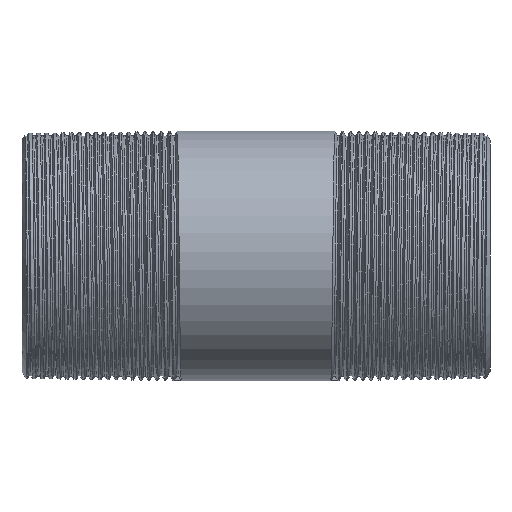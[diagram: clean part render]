
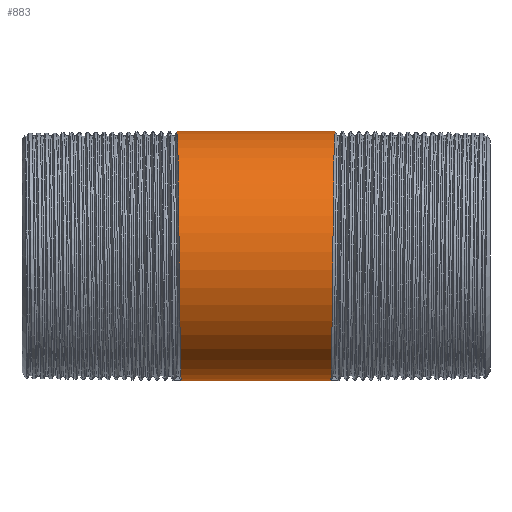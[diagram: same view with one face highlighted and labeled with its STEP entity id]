
A CAD part, front view. The second image highlights one B-rep face of the part: STEP entity #883.
In plain terms, the highlighted cylindrical face has radius 10.65 mm (diameter 21.3 mm), a partial arc.
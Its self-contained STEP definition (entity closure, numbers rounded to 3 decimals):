
#263 = LINE ( 'NONE', #6450, #5748 ) ;
#527 = CARTESIAN_POINT ( 'NONE',  ( -6.679, -6.149, 10.65 ) ) ;
#595 = CARTESIAN_POINT ( 'NONE',  ( -6.504, -9.223, -5.325 ) ) ;
#883 = ADVANCED_FACE ( 'NONE', ( #11057 ), #7964, .T. ) ;
#1062 = ORIENTED_EDGE ( 'NONE', *, *, #12455, .T. ) ;
#1143 = AXIS2_PLACEMENT_3D ( 'NONE', #1585, #7686, #10850 ) ;
#1231 = DIRECTION ( 'NONE',  ( -1., 0., 0. ) ) ;
#1392 = EDGE_CURVE ( 'NONE', #5794, #2106, #7901, .T. ) ;
#1564 = CARTESIAN_POINT ( 'NONE',  ( -6.446, -6.149, -10.65 ) ) ;
#1585 = CARTESIAN_POINT ( 'NONE',  ( -149.494, 0., 0. ) ) ;
#1757 = CARTESIAN_POINT ( 'NONE',  ( 6.563, -12.298, 0. ) ) ;
#1900 = EDGE_CURVE ( 'NONE', #2150, #7421, #263, .T. ) ;
#2106 = VERTEX_POINT ( 'NONE', #12124 ) ;
#2150 = VERTEX_POINT ( 'NONE', #4034 ) ;
#2486 =( BOUNDED_CURVE ( )  B_SPLINE_CURVE ( 2, ( #2993, #7998, #12181, #1757, #5939, #10122, #9499 ),
 .UNSPECIFIED., .F., .F. ) 
 B_SPLINE_CURVE_WITH_KNOTS ( ( 3, 2, 2, 3 ),
 ( 0., 0.008, 0.017, 0.025 ),
 .UNSPECIFIED. ) 
 CURVE ( )  GEOMETRIC_REPRESENTATION_ITEM ( )  RATIONAL_B_SPLINE_CURVE ( ( 1., 0.866, 1., 0.866, 1., 0.866, 1. ) ) 
 REPRESENTATION_ITEM ( '' )  );
#2993 = CARTESIAN_POINT ( 'NONE',  ( 6.388, 0., -10.65 ) ) ;
#3631 = CARTESIAN_POINT ( 'NONE',  ( -6.388, 0., -10.65 ) ) ;
#4034 = CARTESIAN_POINT ( 'NONE',  ( 6.738, 0., 10.65 ) ) ;
#4724 = CARTESIAN_POINT ( 'NONE',  ( -6.738, 0., 10.65 ) ) ;
#5167 = ORIENTED_EDGE ( 'NONE', *, *, #1900, .T. ) ;
#5748 = VECTOR ( 'NONE', #1231, 1000. ) ;
#5754 = CARTESIAN_POINT ( 'NONE',  ( -6.563, -12.298, 0. ) ) ;
#5794 = VERTEX_POINT ( 'NONE', #11839 ) ;
#5939 = CARTESIAN_POINT ( 'NONE',  ( 6.621, -9.223, 5.325 ) ) ;
#6450 = CARTESIAN_POINT ( 'NONE',  ( -149.494, 0., 10.65 ) ) ;
#6920 = CARTESIAN_POINT ( 'NONE',  ( -6.738, 0., 10.65 ) ) ;
#7080 = DIRECTION ( 'NONE',  ( -1., 0., 0. ) ) ;
#7421 = VERTEX_POINT ( 'NONE', #6920 ) ;
#7686 = DIRECTION ( 'NONE',  ( -1., 0., 0. ) ) ;
#7901 = LINE ( 'NONE', #7972, #8585 ) ;
#7964 = CYLINDRICAL_SURFACE ( 'NONE', #1143, 10.65 ) ;
#7972 = CARTESIAN_POINT ( 'NONE',  ( -149.494, 0., -10.65 ) ) ;
#7998 = CARTESIAN_POINT ( 'NONE',  ( 6.446, -6.149, -10.65 ) ) ;
#8585 = VECTOR ( 'NONE', #7080, 1000. ) ;
#9135 =( BOUNDED_CURVE ( )  B_SPLINE_CURVE ( 2, ( #3631, #1564, #595, #5754, #13090, #527, #4724 ),
 .UNSPECIFIED., .F., .F. ) 
 B_SPLINE_CURVE_WITH_KNOTS ( ( 3, 2, 2, 3 ),
 ( 0., 0.008, 0.017, 0.025 ),
 .UNSPECIFIED. ) 
 CURVE ( )  GEOMETRIC_REPRESENTATION_ITEM ( )  RATIONAL_B_SPLINE_CURVE ( ( 1., 0.866, 1., 0.866, 1., 0.866, 1. ) ) 
 REPRESENTATION_ITEM ( '' )  );
#9499 = CARTESIAN_POINT ( 'NONE',  ( 6.738, 0., 10.65 ) ) ;
#9697 = ORIENTED_EDGE ( 'NONE', *, *, #1392, .F. ) ;
#10122 = CARTESIAN_POINT ( 'NONE',  ( 6.679, -6.149, 10.65 ) ) ;
#10850 = DIRECTION ( 'NONE',  ( 0., 0., 1. ) ) ;
#11057 = FACE_OUTER_BOUND ( 'NONE', #13142, .T. ) ;
#11839 = CARTESIAN_POINT ( 'NONE',  ( 6.388, 0., -10.65 ) ) ;
#12124 = CARTESIAN_POINT ( 'NONE',  ( -6.388, 0., -10.65 ) ) ;
#12181 = CARTESIAN_POINT ( 'NONE',  ( 6.504, -9.223, -5.325 ) ) ;
#12355 = ORIENTED_EDGE ( 'NONE', *, *, #13320, .F. ) ;
#12455 = EDGE_CURVE ( 'NONE', #5794, #2150, #2486, .T. ) ;
#13090 = CARTESIAN_POINT ( 'NONE',  ( -6.621, -9.223, 5.325 ) ) ;
#13142 = EDGE_LOOP ( 'NONE', ( #9697, #1062, #5167, #12355 ) ) ;
#13320 = EDGE_CURVE ( 'NONE', #2106, #7421, #9135, .T. ) ;
